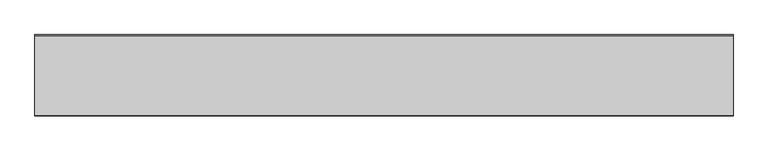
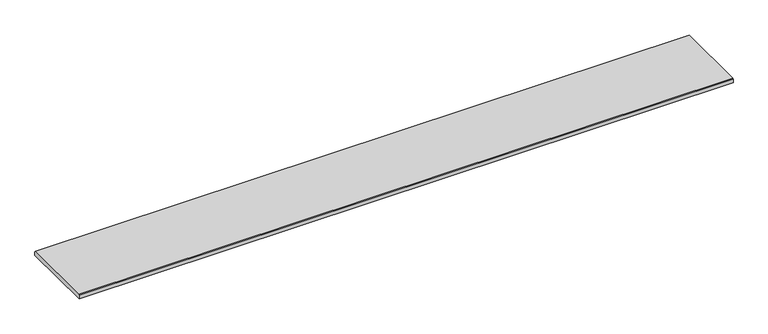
"""IFC4 building model written with IfcOpenShell, lengths in millimetres: proxy geometry."""

from ifc_helpers import new_model, si_unit, frame, origin, place, context, project, spatial, polyline, outline, extrude, source, transform, mapped, element, save


def generic_models_a391f8bd(model_context):
    return source(origin(), model_context, "Body", "SweptSolid", [
        extrude(outline(polyline([(0.0, 13.629936), (2.245064, 15.875), (282.488936, 15.875), (284.734, 13.629936), (284.734, 0.0), (0.0, 0.0), (0.0, 13.629936)])), frame((0.0, 0.0, 0.0), z_axis=(1.0, 0.0, 0.0), x_axis=(0.0, 1.0, 0.0)), (0.0, 0.0, 1.0), 2438.4),
    ])


if __name__ == "__main__":
    model = new_model("IFC4")
    model_context = context("Model", 3, world=origin())
    ifc_project = project(units=[si_unit("LENGTHUNIT", "METRE", prefix="MILLI")], contexts=[model_context])
    site = spatial("IfcSite", under=ifc_project)
    building = spatial("IfcBuilding", under=site)
    placement = place(None, origin())
    generic_models_shape = generic_models_a391f8bd(model_context)
    element("IfcBuildingElementProxy", 1, Name="440 Series Reversible Trim (Fiber) : 440 Series Reversible Trim (Fiber) - 11.21\"", ObjectType="440 Series Reversible Trim (Fiber) : 440 Series Reversible Trim (Fiber) - 11.21\"", at=placement, inside=building, context=model_context, shape_type="MappedRepresentation", body=[
        mapped(generic_models_shape, transform((0.0, 0.0, 0.0), x_axis=(1.0, 0.0, 0.0), y_axis=(0.0, 1.0, 0.0), z_axis=(0.0, 0.0, 1.0))),
    ])
    save(model, "model.ifc")
